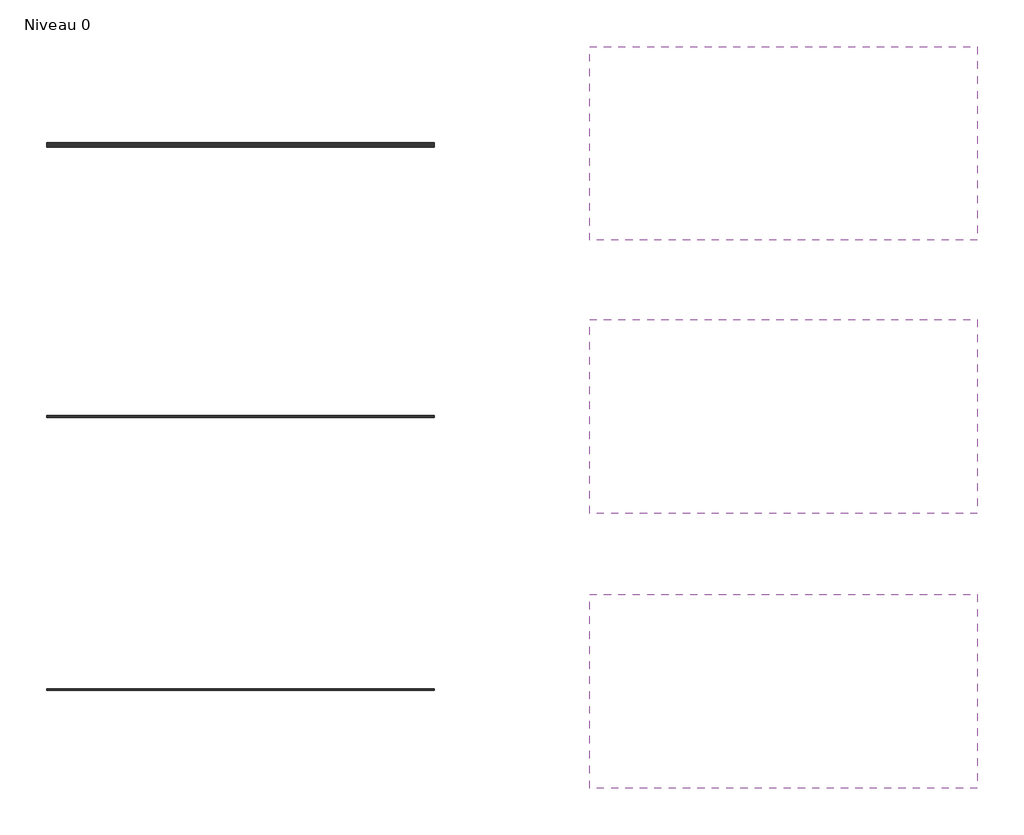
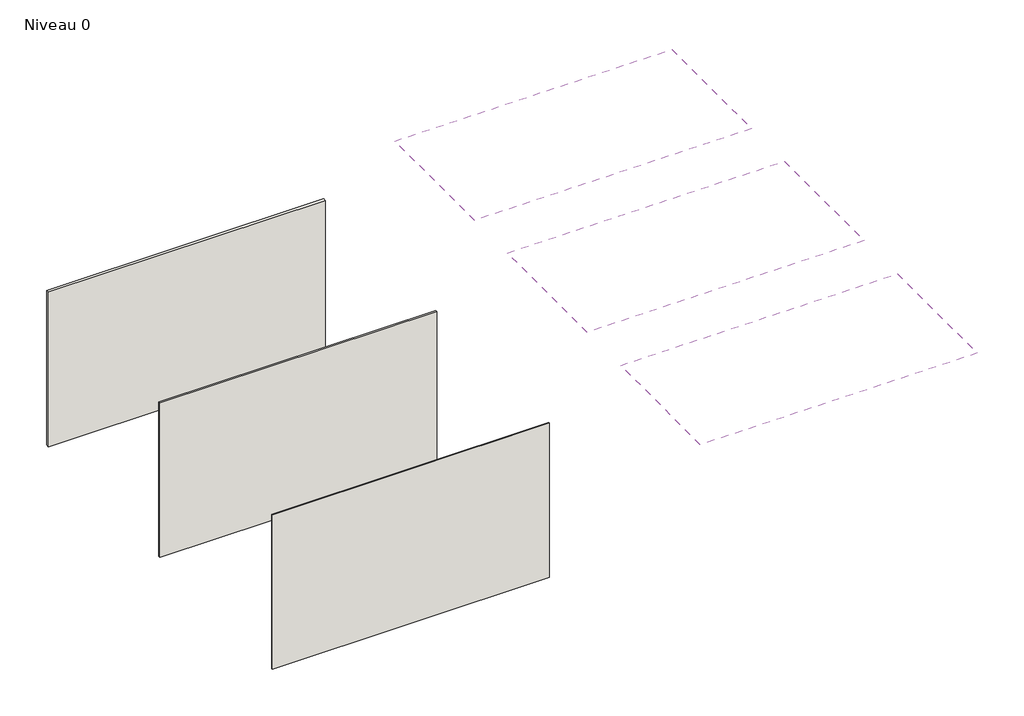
# One storey: 3 coverings, 3 walls.
"""IFC4 building model written with IfcOpenShell, lengths in millimetres."""

from ifc_helpers import new_model, si_unit, frame, origin, origin_with_axes, place, context, project, spatial, polyline, outline, extrude, element, save

model = new_model("IFC4")

# Units and contexts
model_context = context("Model", 3, world=origin())
ifc_project = project(units=[si_unit("LENGTHUNIT", "METRE", prefix="MILLI")], contexts=[model_context])

# Site, building, storey
site = spatial("IfcSite", under=ifc_project)
building = spatial("IfcBuilding", under=site)
storey = spatial("IfcBuildingStorey", under=building, Name="Niveau 0", Elevation=0.0)

# Coverings
placement = place(None, origin())
element("IfcCovering", 1, ObjectType="Texaa_Vibrasto 55_Plafond acoustique", at=placement, inside=storey, context=model_context, shape_type="SweptSolid", body=[
    extrude(outline(polyline([(30425.674383, 4814.9234334), (30425.674383, 2314.9234334), (25425.674383, 2314.9234334), (25425.674383, 4814.9234334), (30425.674383, 4814.9234334)])), frame((0.0, 0.0, 2600.0), z_axis=(0.0, 0.0, 1.0), x_axis=(1.0, 0.0, 0.0)), (0.0, 0.0, 1.0), 55.0),
])
element("IfcCovering", 2, ObjectType="Texaa_Vibrasto 30_Plafond acoustique", at=placement, inside=storey, context=model_context, shape_type="SweptSolid", body=[
    extrude(outline(polyline([(30425.674383, 1292.4234334), (30425.674383, -1207.5765666), (25425.674383, -1207.5765666), (25425.674383, 1292.4234334), (30425.674383, 1292.4234334)])), frame((0.0, 0.0, 2600.0), z_axis=(0.0, 0.0, 1.0), x_axis=(1.0, 0.0, 0.0)), (0.0, 0.0, 1.0), 30.0),
])
element("IfcCovering", 3, ObjectType="Texaa_Vibrasto 15_Plafond acoustique", at=placement, inside=storey, context=model_context, shape_type="SweptSolid", body=[
    extrude(outline(polyline([(30425.674383, -2250.0765666), (30425.674383, -4750.0765666), (25425.674383, -4750.0765666), (25425.674383, -2250.0765666), (30425.674383, -2250.0765666)])), frame((0.0, 0.0, 2600.0), z_axis=(0.0, 0.0, 1.0), x_axis=(1.0, 0.0, 0.0)), (0.0, 0.0, 1.0), 15.0),
])

# Walls
element("IfcWall", 4, ObjectType="Texaa_Vibrasto 55_Mur acoustique", at=placement, inside=storey, context=model_context, shape_type="SweptSolid", body=[
    extrude(outline(polyline([(23425.674383, 3517.4234334), (18425.674383, 3517.4234334), (18425.674383, 3572.4234334), (23425.674383, 3572.4234334), (23425.674383, 3517.4234334)])), origin_with_axes(), (0.0, 0.0, 1.0), 2950.0),
])
element("IfcWall", 5, ObjectType="Texaa_Vibrasto 30_Mur acoustique", at=placement, inside=storey, context=model_context, shape_type="SweptSolid", body=[
    extrude(outline(polyline([(23425.674383, 27.4234334), (18425.674383, 27.4234334), (18425.674383, 57.4234334), (23425.674383, 57.4234334), (23425.674383, 27.4234334)])), origin_with_axes(), (0.0, 0.0, 1.0), 2950.0),
])
element("IfcWall", 6, ObjectType="Texaa_Vibrasto 15_Mur acoustique", at=placement, inside=storey, context=model_context, shape_type="SweptSolid", body=[
    extrude(outline(polyline([(23425.674383, -3487.5765666), (18425.674383, -3487.5765666), (18425.674383, -3472.5765666), (23425.674383, -3472.5765666), (23425.674383, -3487.5765666)])), origin_with_axes(), (0.0, 0.0, 1.0), 2950.0),
])

save(model, "model.ifc")
